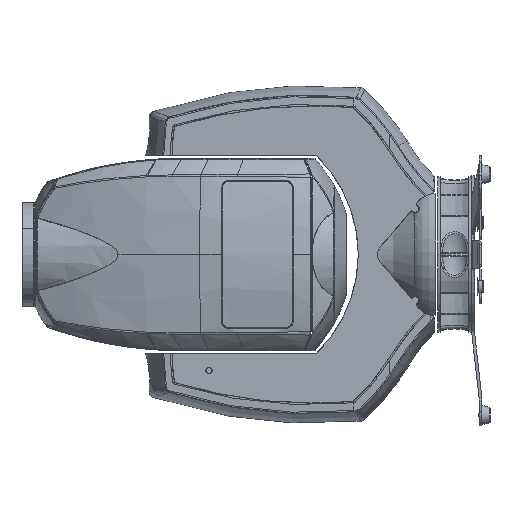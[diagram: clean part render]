
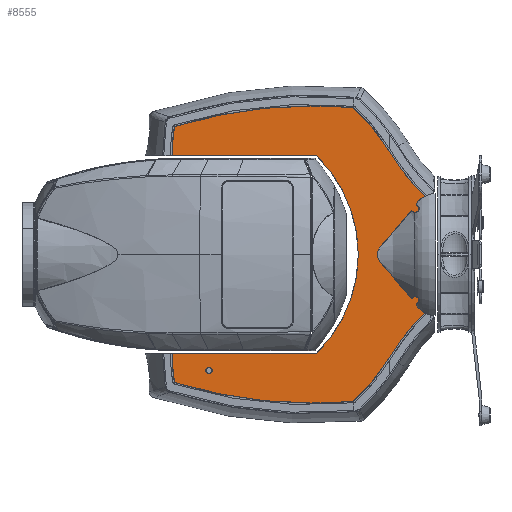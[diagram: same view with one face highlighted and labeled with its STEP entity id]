
A CAD part, left-side view. The second image highlights one B-rep face of the part: STEP entity #8555.
In plain terms, the highlighted planar face has unit normal (-1, 0, 0).
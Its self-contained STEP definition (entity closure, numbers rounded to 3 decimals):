
#8295=DIRECTION('',(0.,-1.,0.));
#8296=VECTOR('',#8295,200.9);
#8297=CARTESIAN_POINT('',(-67.,373.028,137.5));
#8298=LINE('',#8297,#8296);
#8302=CARTESIAN_POINT('',(-67.,180.522,143.5));
#8303=DIRECTION('',(1.,0.,0.));
#8304=DIRECTION('',(0.,1.,-0.031));
#8305=AXIS2_PLACEMENT_3D('',#8302,#8303,#8304);
#8310=CARTESIAN_POINT('',(-67.,180.522,-434.1));
#8311=DIRECTION('',(1.,0.,0.));
#8312=DIRECTION('',(0.,0.296,0.955));
#8313=AXIS2_PLACEMENT_3D('',#8310,#8311,#8312);
#8318=CARTESIAN_POINT('',(-67.,180.522,-434.1));
#8319=DIRECTION('',(1.,0.,0.));
#8320=DIRECTION('',(0.,0.,1.));
#8321=AXIS2_PLACEMENT_3D('',#8318,#8319,#8320);
#8326=CARTESIAN_POINT('',(-67.,325.,-12.5));
#8327=DIRECTION('',(1.,0.,0.));
#8328=DIRECTION('',(0.,-0.687,0.727));
#8329=AXIS2_PLACEMENT_3D('',#8326,#8327,#8328);
#8334=CARTESIAN_POINT('',(-67.,-209.512,315.067));
#8335=DIRECTION('',(-1.,0.,0.));
#8336=DIRECTION('',(0.,0.853,-0.523));
#8337=AXIS2_PLACEMENT_3D('',#8334,#8335,#8336);
#8342=DIRECTION('',(0.,0.,-1.));
#8343=VECTOR('',#8342,146.1);
#8344=CARTESIAN_POINT('',(-67.,13.5,73.05));
#8345=LINE('',#8344,#8343);
#8349=CARTESIAN_POINT('',(-67.,-209.512,-315.067));
#8350=DIRECTION('',(-1.,0.,0.));
#8351=DIRECTION('',(0.,0.678,0.735));
#8352=AXIS2_PLACEMENT_3D('',#8349,#8350,#8351);
#8357=CARTESIAN_POINT('',(-67.,325.,12.5));
#8358=DIRECTION('',(1.,0.,0.));
#8359=DIRECTION('',(0.,-0.853,-0.523));
#8360=AXIS2_PLACEMENT_3D('',#8357,#8358,#8359);
#8365=CARTESIAN_POINT('',(-67.,180.522,434.1));
#8366=DIRECTION('',(1.,0.,0.));
#8367=DIRECTION('',(0.,-0.094,-0.996));
#8368=AXIS2_PLACEMENT_3D('',#8365,#8366,#8367);
#8373=CARTESIAN_POINT('',(-67.,180.522,434.1));
#8374=DIRECTION('',(1.,0.,0.));
#8375=DIRECTION('',(0.,0.,-1.));
#8376=AXIS2_PLACEMENT_3D('',#8373,#8374,#8375);
#8381=CARTESIAN_POINT('',(-67.,180.522,-143.5));
#8382=DIRECTION('',(1.,0.,0.));
#8383=DIRECTION('',(0.,0.984,-0.18));
#8384=AXIS2_PLACEMENT_3D('',#8381,#8382,#8383);
#8389=CARTESIAN_POINT('',(-67.,306.85,0.));
#8390=DIRECTION('',(-1.,0.,0.));
#8391=DIRECTION('',(0.,-0.7,-0.714));
#8392=AXIS2_PLACEMENT_3D('',#8389,#8390,#8391);
#8397=CARTESIAN_POINT('',(-67.,306.85,0.));
#8398=DIRECTION('',(-1.,0.,0.));
#8399=DIRECTION('',(0.,-1.,0.));
#8400=AXIS2_PLACEMENT_3D('',#8397,#8398,#8399);
#8412=DIRECTION('',(0.,1.,0.));
#8413=VECTOR('',#8412,200.9);
#8414=CARTESIAN_POINT('',(-67.,172.128,-137.5));
#8415=LINE('',#8414,#8413);
#8473=CARTESIAN_POINT('',(-67.,373.028,137.5));
#8474=VERTEX_POINT('',#8473);
#8475=CARTESIAN_POINT('',(-67.,172.128,137.5));
#8476=VERTEX_POINT('',#8475);
#8477=CARTESIAN_POINT('',(-67.,369.978,178.157));
#8478=VERTEX_POINT('',#8477);
#8479=CARTESIAN_POINT('',(-67.,180.522,206.8));
#8480=VERTEX_POINT('',#8479);
#8481=CARTESIAN_POINT('',(-67.,120.501,203.983));
#8482=VERTEX_POINT('',#8481);
#8483=CARTESIAN_POINT('',(-67.,71.088,143.106));
#8484=VERTEX_POINT('',#8483);
#8485=CARTESIAN_POINT('',(-67.,13.5,73.05));
#8486=VERTEX_POINT('',#8485);
#8487=CARTESIAN_POINT('',(-67.,13.5,-73.05));
#8488=VERTEX_POINT('',#8487);
#8489=CARTESIAN_POINT('',(-67.,71.088,-143.106));
#8490=VERTEX_POINT('',#8489);
#8491=CARTESIAN_POINT('',(-67.,120.501,-203.983));
#8492=VERTEX_POINT('',#8491);
#8493=CARTESIAN_POINT('',(-67.,180.522,-206.8));
#8494=VERTEX_POINT('',#8493);
#8495=CARTESIAN_POINT('',(-67.,369.978,-178.157));
#8496=VERTEX_POINT('',#8495);
#8497=CARTESIAN_POINT('',(-67.,373.028,-137.5));
#8498=VERTEX_POINT('',#8497);
#8499=CARTESIAN_POINT('',(-67.,172.128,-137.5));
#8500=VERTEX_POINT('',#8499);
#8501=CARTESIAN_POINT('',(-67.,114.35,0.));
#8502=VERTEX_POINT('',#8501);
#8519=CARTESIAN_POINT('',(-67.,325.,0.));
#8520=DIRECTION('',(1.,0.,0.));
#8521=DIRECTION('',(0.,0.,1.));
#8522=AXIS2_PLACEMENT_3D('',#8519,#8520,#8521);
#8523=PLANE('',#8522);
#8524=ORIENTED_EDGE('',*,*,#8512,.F.);
#8526=ORIENTED_EDGE('',*,*,#8525,.T.);
#8528=ORIENTED_EDGE('',*,*,#8527,.T.);
#8530=ORIENTED_EDGE('',*,*,#8529,.T.);
#8532=ORIENTED_EDGE('',*,*,#8531,.T.);
#8534=ORIENTED_EDGE('',*,*,#8533,.T.);
#8536=ORIENTED_EDGE('',*,*,#8535,.T.);
#8538=ORIENTED_EDGE('',*,*,#8537,.T.);
#8540=ORIENTED_EDGE('',*,*,#8539,.T.);
#8542=ORIENTED_EDGE('',*,*,#8541,.T.);
#8544=ORIENTED_EDGE('',*,*,#8543,.T.);
#8546=ORIENTED_EDGE('',*,*,#8545,.T.);
#8548=ORIENTED_EDGE('',*,*,#8547,.F.);
#8550=ORIENTED_EDGE('',*,*,#8549,.T.);
#8552=ORIENTED_EDGE('',*,*,#8551,.T.);
#8553=EDGE_LOOP('',(#8524,#8526,#8528,#8530,#8532,#8534,#8536,#8538,#8540,#8542,
#8544,#8546,#8548,#8550,#8552));
#8554=FACE_OUTER_BOUND('',#8553,.F.);
#8306=CIRCLE('',#8305,192.6);
#8314=CIRCLE('',#8313,640.9);
#8322=CIRCLE('',#8321,640.9);
#8330=CIRCLE('',#8329,297.8);
#8338=CIRCLE('',#8337,329.1);
#8353=CIRCLE('',#8352,329.1);
#8361=CIRCLE('',#8360,297.8);
#8369=CIRCLE('',#8368,640.9);
#8377=CIRCLE('',#8376,640.9);
#8385=CIRCLE('',#8384,192.6);
#8393=CIRCLE('',#8392,192.5);
#8401=CIRCLE('',#8400,192.5);
#8512=EDGE_CURVE('',#8474,#8476,#8298,.T.);
#8525=EDGE_CURVE('',#8474,#8478,#8306,.T.);
#8527=EDGE_CURVE('',#8478,#8480,#8314,.T.);
#8529=EDGE_CURVE('',#8480,#8482,#8322,.T.);
#8531=EDGE_CURVE('',#8482,#8484,#8330,.T.);
#8533=EDGE_CURVE('',#8484,#8486,#8338,.T.);
#8535=EDGE_CURVE('',#8486,#8488,#8345,.T.);
#8537=EDGE_CURVE('',#8488,#8490,#8353,.T.);
#8539=EDGE_CURVE('',#8490,#8492,#8361,.T.);
#8541=EDGE_CURVE('',#8492,#8494,#8369,.T.);
#8543=EDGE_CURVE('',#8494,#8496,#8377,.T.);
#8545=EDGE_CURVE('',#8496,#8498,#8385,.T.);
#8547=EDGE_CURVE('',#8500,#8498,#8415,.T.);
#8549=EDGE_CURVE('',#8500,#8502,#8393,.T.);
#8551=EDGE_CURVE('',#8502,#8476,#8401,.T.);
#8555=ADVANCED_FACE('',(#8554),#8523,.F.);
